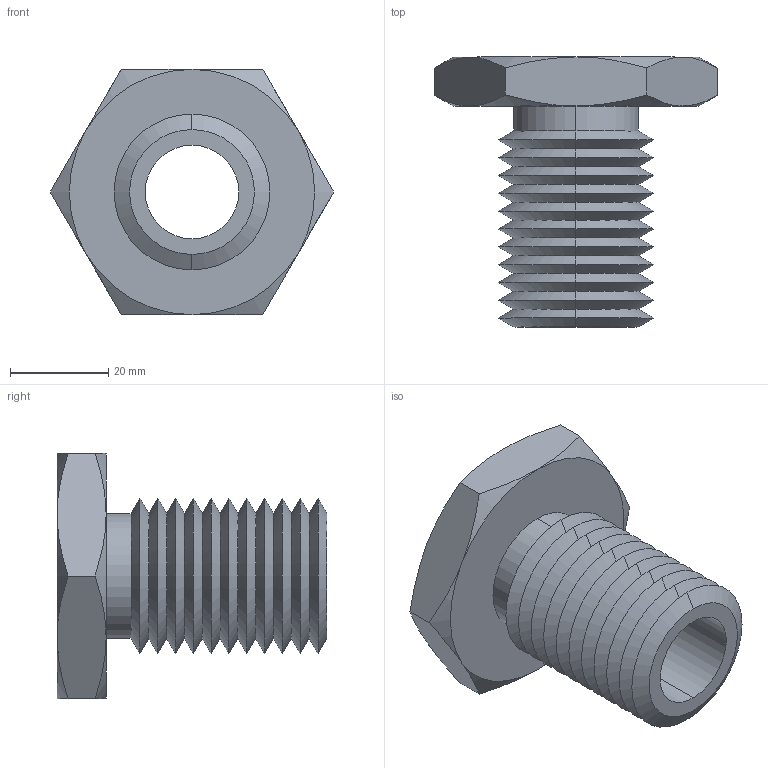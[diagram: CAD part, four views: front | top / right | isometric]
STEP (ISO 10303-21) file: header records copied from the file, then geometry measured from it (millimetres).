
FILE_DESCRIPTION (( 'STEP AP203' ), '1' );
FILE_NAME ('63302.W5125_0,75 UNC-10.step', '2013-12-08T11:59:58', ( 'User' ), ( '' ), 'SwSTEP 2.0', 'SolidWorks 2009', '' );
FILE_SCHEMA (( 'CONFIG_CONTROL_DESIGN' ));
Length unit declared in the file: millimetre
Products named in the file (1): 63302.W5125_0,75 UNC-10
Bounding box: 57.73 x 55 x 50 mm (x, y, z)
Volume: 33841 mm3; surface area: 16082.7 mm2
Topology: 1 solids, 1 shells, 71 faces, 146 edges, 78 vertices
Faces by surface type: cone 58, plane 9, cylinder 4
Entity records: 2039 total; most frequent: CARTESIAN_POINT 480, DIRECTION 332, ORIENTED_EDGE 292, EDGE_CURVE 146, AXIS2_PLACEMENT_3D 138, VERTEX_POINT 78, EDGE_LOOP 74, ADVANCED_FACE 71
